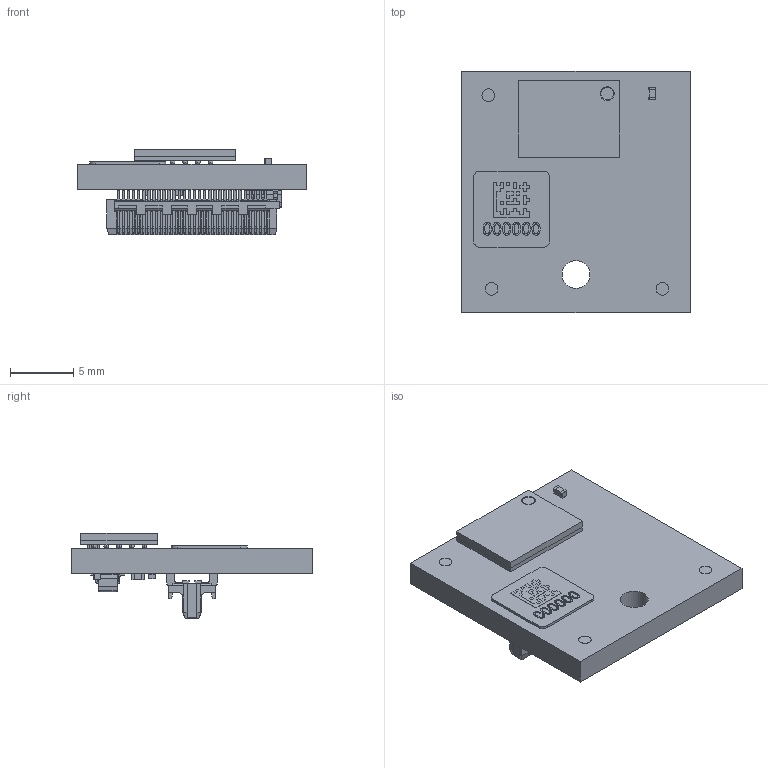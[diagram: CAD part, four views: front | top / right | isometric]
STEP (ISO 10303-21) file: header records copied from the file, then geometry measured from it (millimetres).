
FILE_DESCRIPTION(('Open CASCADE Model'),'2;1');
FILE_NAME('Open CASCADE Shape Model','2021-03-31T08:45:57',('Author'),( 'Open CASCADE'),'Open CASCADE STEP processor 6.8','Open CASCADE 6.8' ,'Unknown');
FILE_SCHEMA(('AUTOMOTIVE_DESIGN { 1 0 10303 214 1 1 1 1 }'));
Length unit declared in the file: millimetre
Products named in the file (34): PCB; Board=projectname; Open CASCADE STEP translator 6.8 3.1.1; C2=projectname; User_Library-SMD_CAPACITOR0402; C1=projectname; Serial1=projectname; Label; PM1=projectname; 6334778400; Cylinder; PM2=projectname; PM4=projectname; 7212635248; PM5=projectname; PM3=projectname; 7200405872; PM6=projectname; 7212636048; J1=projectname; ST4-30-1.50-L-D_RGB16777215; _ST4-30-1.50-L-D_terminal; _ST4-30-1.50-L-D_pin; U1=projectname; 6408609936; R1=projectname; 6408616736; R2=projectname; U2=projectname; 6408612416; C3=projectname
Assembly tree (38 placements, depth 4):
  PCB
    Board=projectname
      Open CASCADE STEP translator 6.8 3.1.1
    C2=projectname
      User_Library-SMD_CAPACITOR0402
    C1=projectname
      User_Library-SMD_CAPACITOR0402
    Serial1=projectname
      Label
    PM1=projectname
      6334778400
        Cylinder
    PM2=projectname
      6334778400
        Cylinder
    PM4=projectname
      7212635248
        Cylinder
    PM5=projectname
      7212635248
        Cylinder
    PM3=projectname
      7200405872
        Cylinder
    PM6=projectname
      7212636048
        Cylinder
    J1=projectname
      ST4-30-1.50-L-D_RGB16777215
        _ST4-30-1.50-L-D_terminal
        _ST4-30-1.50-L-D_pin
    U1=projectname
      6408609936
    R1=projectname
      6408616736
    R2=projectname
      6408616736
    U2=projectname
      6408612416
    C3=projectname
      User_Library-SMD_CAPACITOR0402
Bounding box: 18 x 19 x 6.74 mm (x, y, z)
Volume: 799.5 mm3; surface area: 1841.6 mm2
Topology: 54 solids, 54 shells, 2857 faces, 8446 edges, 5524 vertices
Faces by surface type: plane 1952, cylinder 753, sphere 88, bspline 60, torus 4
Full cylindrical faces by diameter (mm): 1 x6, 2.2 x1
Entity records: 117239 total; most frequent: CARTESIAN_POINT 20482, ORIENTED_EDGE 16024, DIRECTION 14738, EDGE_CURVE 8012, LINE 6234, VECTOR 6234, VERTEX_POINT 5324, AXIS2_PLACEMENT_3D 4252
